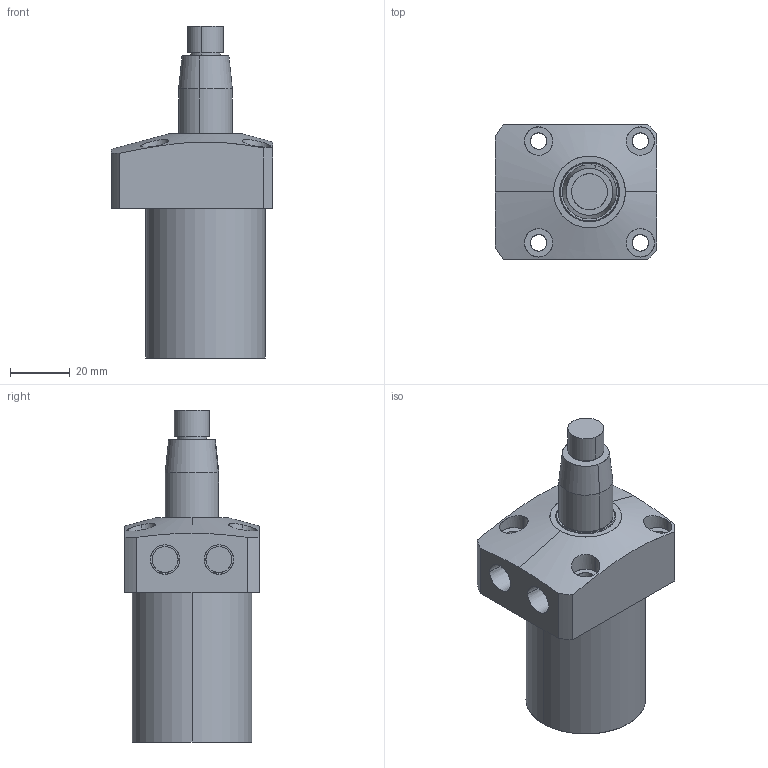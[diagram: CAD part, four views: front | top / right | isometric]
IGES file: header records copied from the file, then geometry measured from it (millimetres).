
Start section: SolidWorks IGES file using analytic representation for surfaces
Global section: file name: E:\karthik\CLASYS\Pneumatic Swing cylinders\Top mount cyl 0311\40\0311-0401.IGS; native system: SolidWorks 2010; preprocessor: SolidWorks 2010; author: karthik; date: 130916.094955; units: millimetre
Bounding box: 54 x 45 x 111 mm (x, y, z)
Surface area: 20223.1 mm2 (no closed solid volume)
Topology: 0 solids, 0 shells, 96 faces, 2532 edges, 2528 vertices
Faces by surface type: revolution 68, bspline 28
